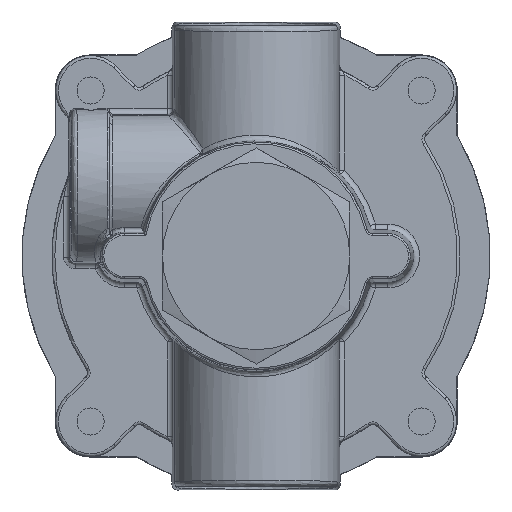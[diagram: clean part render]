
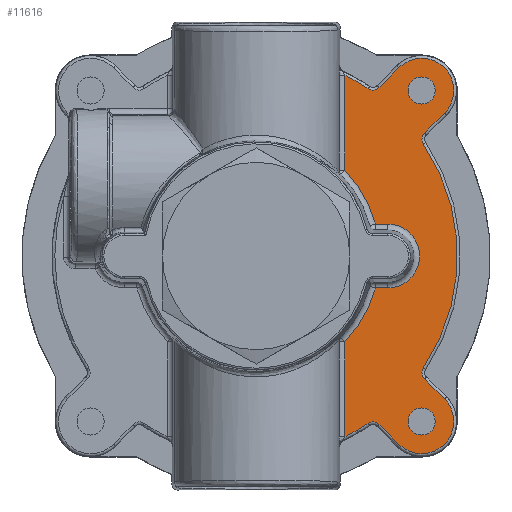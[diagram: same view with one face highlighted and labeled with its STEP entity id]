
A CAD part, front view. The second image highlights one B-rep face of the part: STEP entity #11616.
In plain terms, the highlighted planar face has unit normal (0, -1, 0).
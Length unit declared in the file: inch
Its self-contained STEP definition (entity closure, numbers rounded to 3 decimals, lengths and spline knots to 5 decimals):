
#1580=CIRCLE('',#12970,0.65961);
#1585=CIRCLE('',#12978,0.17061);
#1591=CIRCLE('',#12987,0.65961);
#1599=CIRCLE('',#13002,1.075);
#1602=CIRCLE('',#13006,1.075);
#1603=CIRCLE('',#13007,0.04625);
#1604=CIRCLE('',#13008,0.172);
#1605=CIRCLE('',#13009,0.04625);
#1606=CIRCLE('',#13010,1.075);
#1607=CIRCLE('',#13011,0.04625);
#1608=CIRCLE('',#13012,0.172);
#1609=CIRCLE('',#13013,0.04625);
#1610=CIRCLE('',#13014,0.0725);
#1611=CIRCLE('',#13015,0.0725);
#1868=FACE_BOUND('',#3292,.T.);
#1869=FACE_BOUND('',#3293,.T.);
#2478=FACE_OUTER_BOUND('',#3291,.T.);
#3291=EDGE_LOOP('',(#10178,#10179,#10180,#10181,#10182,#10183,#10184,#10185,
#10186,#10187,#10188,#10189,#10190,#10191,#10192,#10193,#10194,#10195,#10196,
#10197));
#3292=EDGE_LOOP('',(#10198));
#3293=EDGE_LOOP('',(#10199));
#3989=LINE('',#24485,#4472);
#3991=LINE('',#24531,#4474);
#3992=LINE('',#24542,#4475);
#3994=LINE('',#24556,#4477);
#3995=LINE('',#24696,#4478);
#3996=LINE('',#24700,#4479);
#3997=LINE('',#24708,#4480);
#3998=LINE('',#24712,#4481);
#4472=VECTOR('',#16062,0.50628);
#4474=VECTOR('',#16082,0.06584);
#4475=VECTOR('',#16095,0.06584);
#4477=VECTOR('',#16117,0.50628);
#4478=VECTOR('',#16150,0.1502);
#4479=VECTOR('',#16153,0.1502);
#4480=VECTOR('',#16160,0.1502);
#4481=VECTOR('',#16163,0.1502);
#5513=VERTEX_POINT('',#24481);
#5514=VERTEX_POINT('',#24483);
#5515=VERTEX_POINT('',#24519);
#5518=VERTEX_POINT('',#24529);
#5520=VERTEX_POINT('',#24534);
#5522=VERTEX_POINT('',#24540);
#5523=VERTEX_POINT('',#24548);
#5524=VERTEX_POINT('',#24554);
#5534=VERTEX_POINT('',#24685);
#5536=VERTEX_POINT('',#24691);
#5537=VERTEX_POINT('',#24693);
#5538=VERTEX_POINT('',#24695);
#5539=VERTEX_POINT('',#24697);
#5540=VERTEX_POINT('',#24699);
#5541=VERTEX_POINT('',#24701);
#5542=VERTEX_POINT('',#24703);
#5543=VERTEX_POINT('',#24705);
#5544=VERTEX_POINT('',#24707);
#5545=VERTEX_POINT('',#24709);
#5546=VERTEX_POINT('',#24711);
#5547=VERTEX_POINT('',#24714);
#5548=VERTEX_POINT('',#24716);
#7104=EDGE_CURVE('',#5514,#5513,#3989,.T.);
#7108=EDGE_CURVE('',#5515,#5514,#1580,.T.);
#7113=EDGE_CURVE('',#5518,#5515,#3991,.T.);
#7115=EDGE_CURVE('',#5520,#5518,#1585,.T.);
#7118=EDGE_CURVE('',#5522,#5520,#3992,.T.);
#7123=EDGE_CURVE('',#5523,#5522,#1591,.T.);
#7126=EDGE_CURVE('',#5524,#5523,#3994,.T.);
#7141=EDGE_CURVE('',#5513,#5534,#1599,.T.);
#7144=EDGE_CURVE('',#5536,#5524,#1602,.T.);
#7145=EDGE_CURVE('',#5537,#5536,#1603,.T.);
#7146=EDGE_CURVE('',#5538,#5537,#3995,.T.);
#7147=EDGE_CURVE('',#5539,#5538,#1604,.T.);
#7148=EDGE_CURVE('',#5540,#5539,#3996,.T.);
#7149=EDGE_CURVE('',#5541,#5540,#1605,.T.);
#7150=EDGE_CURVE('',#5542,#5541,#1606,.T.);
#7151=EDGE_CURVE('',#5543,#5542,#1607,.T.);
#7152=EDGE_CURVE('',#5544,#5543,#3997,.T.);
#7153=EDGE_CURVE('',#5545,#5544,#1608,.T.);
#7154=EDGE_CURVE('',#5546,#5545,#3998,.T.);
#7155=EDGE_CURVE('',#5534,#5546,#1609,.T.);
#7156=EDGE_CURVE('',#5547,#5547,#1610,.T.);
#7157=EDGE_CURVE('',#5548,#5548,#1611,.T.);
#10178=ORIENTED_EDGE('',*,*,#7104,.F.);
#10179=ORIENTED_EDGE('',*,*,#7108,.F.);
#10180=ORIENTED_EDGE('',*,*,#7113,.F.);
#10181=ORIENTED_EDGE('',*,*,#7115,.F.);
#10182=ORIENTED_EDGE('',*,*,#7118,.F.);
#10183=ORIENTED_EDGE('',*,*,#7123,.F.);
#10184=ORIENTED_EDGE('',*,*,#7126,.F.);
#10185=ORIENTED_EDGE('',*,*,#7144,.F.);
#10186=ORIENTED_EDGE('',*,*,#7145,.F.);
#10187=ORIENTED_EDGE('',*,*,#7146,.F.);
#10188=ORIENTED_EDGE('',*,*,#7147,.F.);
#10189=ORIENTED_EDGE('',*,*,#7148,.F.);
#10190=ORIENTED_EDGE('',*,*,#7149,.F.);
#10191=ORIENTED_EDGE('',*,*,#7150,.F.);
#10192=ORIENTED_EDGE('',*,*,#7151,.F.);
#10193=ORIENTED_EDGE('',*,*,#7152,.F.);
#10194=ORIENTED_EDGE('',*,*,#7153,.F.);
#10195=ORIENTED_EDGE('',*,*,#7154,.F.);
#10196=ORIENTED_EDGE('',*,*,#7155,.F.);
#10197=ORIENTED_EDGE('',*,*,#7141,.F.);
#10198=ORIENTED_EDGE('',*,*,#7156,.T.);
#10199=ORIENTED_EDGE('',*,*,#7157,.T.);
#10984=PLANE('',#13005);
#11616=ADVANCED_FACE('',(#2478,#1868,#1869),#10984,.F.);
#12970=AXIS2_PLACEMENT_3D('',#24521,#16069,#16070);
#12978=AXIS2_PLACEMENT_3D('',#24536,#16087,#16088);
#12987=AXIS2_PLACEMENT_3D('',#24550,#16107,#16108);
#13002=AXIS2_PLACEMENT_3D('',#24686,#16138,#16139);
#13005=AXIS2_PLACEMENT_3D('',#24690,#16144,#16145);
#13006=AXIS2_PLACEMENT_3D('',#24692,#16146,#16147);
#13007=AXIS2_PLACEMENT_3D('',#24694,#16148,#16149);
#13008=AXIS2_PLACEMENT_3D('',#24698,#16151,#16152);
#13009=AXIS2_PLACEMENT_3D('',#24702,#16154,#16155);
#13010=AXIS2_PLACEMENT_3D('',#24704,#16156,#16157);
#13011=AXIS2_PLACEMENT_3D('',#24706,#16158,#16159);
#13012=AXIS2_PLACEMENT_3D('',#24710,#16161,#16162);
#13013=AXIS2_PLACEMENT_3D('',#24713,#16164,#16165);
#13014=AXIS2_PLACEMENT_3D('',#24715,#16166,#16167);
#13015=AXIS2_PLACEMENT_3D('',#24717,#16168,#16169);
#16062=DIRECTION('',(-1.,0.,0.));
#16069=DIRECTION('center_axis',(0.,-1.,0.));
#16070=DIRECTION('ref_axis',(-0.493,0.,0.87));
#16082=DIRECTION('',(0.,0.,-1.));
#16087=DIRECTION('center_axis',(0.,-1.,0.));
#16088=DIRECTION('ref_axis',(0.,0.,1.));
#16095=DIRECTION('',(0.,0.,1.));
#16107=DIRECTION('center_axis',(0.,-1.,0.));
#16108=DIRECTION('ref_axis',(0.493,0.,0.87));
#16117=DIRECTION('',(-1.,0.,0.));
#16138=DIRECTION('center_axis',(0.,1.,0.));
#16139=DIRECTION('ref_axis',(-0.871,0.,0.491));
#16144=DIRECTION('center_axis',(0.,1.,0.));
#16145=DIRECTION('ref_axis',(0.,0.,1.));
#16146=DIRECTION('center_axis',(0.,1.,0.));
#16147=DIRECTION('ref_axis',(0.871,0.,0.491));
#16148=DIRECTION('center_axis',(0.,-1.,0.));
#16149=DIRECTION('ref_axis',(-0.995,0.,0.098));
#16150=DIRECTION('',(-0.707,0.,-0.707));
#16151=DIRECTION('center_axis',(0.,1.,0.));
#16152=DIRECTION('ref_axis',(0.707,0.,0.707));
#16153=DIRECTION('',(0.707,0.,0.707));
#16154=DIRECTION('center_axis',(0.,-1.,0.));
#16155=DIRECTION('ref_axis',(0.098,0.,-0.995));
#16156=DIRECTION('center_axis',(0.,1.,0.));
#16157=DIRECTION('ref_axis',(0.,0.,1.));
#16158=DIRECTION('center_axis',(0.,-1.,0.));
#16159=DIRECTION('ref_axis',(-0.098,0.,-0.995));
#16160=DIRECTION('',(0.707,0.,-0.707));
#16161=DIRECTION('center_axis',(0.,1.,0.));
#16162=DIRECTION('ref_axis',(-0.707,0.,0.707));
#16163=DIRECTION('',(-0.707,0.,0.707));
#16164=DIRECTION('center_axis',(0.,-1.,0.));
#16165=DIRECTION('ref_axis',(0.995,0.,0.098));
#16166=DIRECTION('center_axis',(0.,1.,0.));
#16167=DIRECTION('ref_axis',(1.,0.,0.));
#16168=DIRECTION('center_axis',(0.,1.,0.));
#16169=DIRECTION('ref_axis',(1.,0.,0.));
#24481=CARTESIAN_POINT('',(-0.96474,-0.36,0.47423));
#24483=CARTESIAN_POINT('',(-0.45846,-0.36,0.47423));
#24485=CARTESIAN_POINT('',(-0.45846,-0.36,0.47423));
#24519=CARTESIAN_POINT('',(-0.17061,-0.36,0.63716));
#24521=CARTESIAN_POINT('Origin',(0.,-0.36,0.));
#24529=CARTESIAN_POINT('',(-0.17061,-0.36,0.703));
#24531=CARTESIAN_POINT('',(-0.17061,-0.36,0.703));
#24534=CARTESIAN_POINT('',(0.17061,-0.36,0.703));
#24536=CARTESIAN_POINT('Origin',(0.,-0.36,0.703));
#24540=CARTESIAN_POINT('',(0.17061,-0.36,0.63716));
#24542=CARTESIAN_POINT('',(0.17061,-0.36,0.63716));
#24548=CARTESIAN_POINT('',(0.45846,-0.36,0.47423));
#24550=CARTESIAN_POINT('Origin',(0.,-0.36,0.));
#24554=CARTESIAN_POINT('',(0.96474,-0.36,0.47423));
#24556=CARTESIAN_POINT('',(0.96474,-0.36,0.47423));
#24685=CARTESIAN_POINT('',(-0.89356,-0.36,0.59764));
#24686=CARTESIAN_POINT('Origin',(0.,-0.36,0.));
#24690=CARTESIAN_POINT('Origin',(0.,-0.36,0.));
#24691=CARTESIAN_POINT('',(0.89356,-0.36,0.59764));
#24692=CARTESIAN_POINT('Origin',(0.,-0.36,0.));
#24693=CARTESIAN_POINT('',(0.8993,-0.36,0.65606));
#24694=CARTESIAN_POINT('Origin',(0.932,-0.36,0.62335));
#24695=CARTESIAN_POINT('',(1.00551,-0.36,0.76226));
#24696=CARTESIAN_POINT('',(1.00551,-0.36,0.76226));
#24697=CARTESIAN_POINT('',(0.76226,-0.36,1.00551));
#24698=CARTESIAN_POINT('Origin',(0.88388,-0.36,0.88388));
#24699=CARTESIAN_POINT('',(0.65606,-0.36,0.8993));
#24700=CARTESIAN_POINT('',(0.65606,-0.36,0.8993));
#24701=CARTESIAN_POINT('',(0.59764,-0.36,0.89356));
#24702=CARTESIAN_POINT('Origin',(0.62335,-0.36,0.932));
#24703=CARTESIAN_POINT('',(-0.59764,-0.36,0.89356));
#24704=CARTESIAN_POINT('Origin',(0.,-0.36,0.));
#24705=CARTESIAN_POINT('',(-0.65606,-0.36,0.8993));
#24706=CARTESIAN_POINT('Origin',(-0.62335,-0.36,0.932));
#24707=CARTESIAN_POINT('',(-0.76226,-0.36,1.00551));
#24708=CARTESIAN_POINT('',(-0.76226,-0.36,1.00551));
#24709=CARTESIAN_POINT('',(-1.00551,-0.36,0.76226));
#24710=CARTESIAN_POINT('Origin',(-0.88388,-0.36,0.88388));
#24711=CARTESIAN_POINT('',(-0.8993,-0.36,0.65606));
#24712=CARTESIAN_POINT('',(-0.8993,-0.36,0.65606));
#24713=CARTESIAN_POINT('Origin',(-0.932,-0.36,0.62335));
#24714=CARTESIAN_POINT('',(0.81138,-0.36,0.88388));
#24715=CARTESIAN_POINT('Origin',(0.88388,-0.36,0.88388));
#24716=CARTESIAN_POINT('',(-0.95638,-0.36,0.88388));
#24717=CARTESIAN_POINT('Origin',(-0.88388,-0.36,0.88388));
